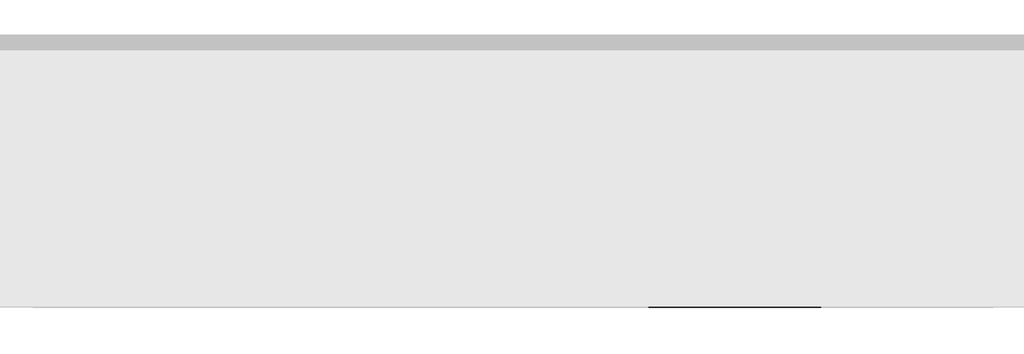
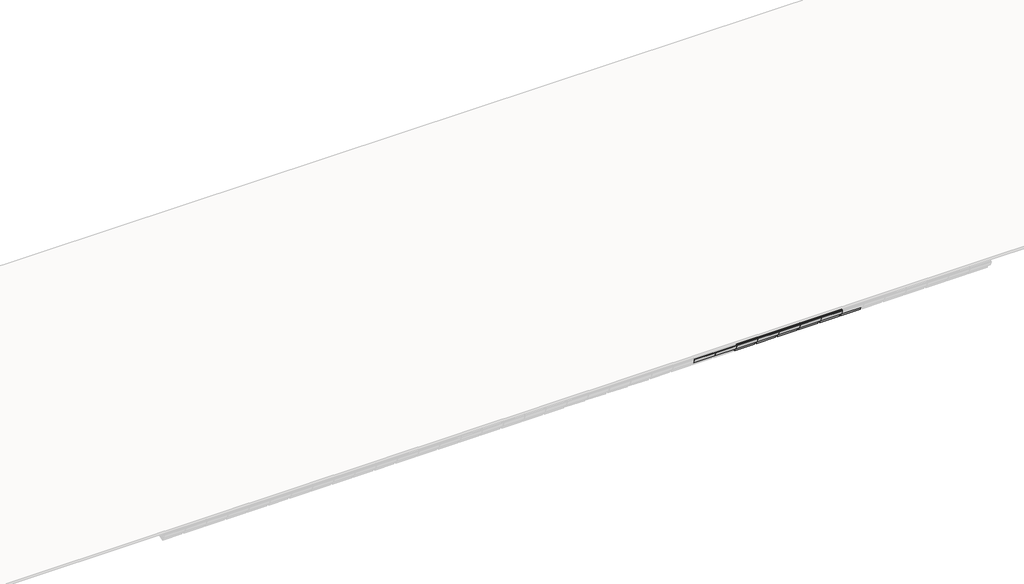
# One storey, part 25 of 57: 80 members, 44 plates.
"""IFC4 building model written with IfcOpenShell, lengths in millimetres."""

from ifc_helpers import new_model, si_unit, origin, place, context, project, spatial, transform, mapped, element, save
from components import rectangular_mullion_59984080, rectangular_mullion_e3e5c75d, rectangular_mullion_2d2423ea, rectangular_mullion_883ae41b, rectangular_mullion_caibro_e4384bba, rectangular_mullion_caibro_0993a3cf, empty_system_panel_vazio_178faf58, empty_system_panel_vazio_2c78850d

model = new_model("IFC4")

# Units and contexts
model_context = context("Model", 3, world=origin())
ifc_project = project(units=[si_unit("LENGTHUNIT", "METRE", prefix="MILLI")], contexts=[model_context])

# Site, building, storey
site = spatial("IfcSite", under=ifc_project)
building = spatial("IfcBuilding", under=site)
storey = spatial("IfcBuildingStorey", under=building, Name="Nível 2", Elevation=4100.0)

# Members
placement = place(None, origin())
rectangular_mullion_shape = rectangular_mullion_59984080(model_context)
element("IfcMember", 1, ObjectType="Rectangular Mullion : Ripa", at=placement, inside=storey, context=model_context, shape_type="MappedRepresentation", body=[
    mapped(rectangular_mullion_shape, transform((29241.1994477, 7422.2287521, 3376.7178042), x_axis=(0.0, 0.9578262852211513, 0.2873478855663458), y_axis=(0.0, 0.2873478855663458, -0.9578262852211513), z_axis=(-1.0, 0.0, 0.0))),
])
element("IfcMember", 2, ObjectType="Rectangular Mullion : Ripa", at=placement, inside=storey, context=model_context, shape_type="MappedRepresentation", body=[
    mapped(rectangular_mullion_shape, transform((29838.2542041, 7422.2287521, 3376.7178042), x_axis=(0.0, 0.9578262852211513, 0.2873478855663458), y_axis=(0.0, 0.2873478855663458, -0.9578262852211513), z_axis=(-1.0, 0.0, 0.0))),
])
element("IfcMember", 3, ObjectType="Rectangular Mullion : Ripa", at=placement, inside=storey, context=model_context, shape_type="MappedRepresentation", body=[
    mapped(rectangular_mullion_shape, transform((30435.3089606, 7422.2287521, 3376.7178042), x_axis=(0.0, 0.9578262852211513, 0.2873478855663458), y_axis=(0.0, 0.2873478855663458, -0.9578262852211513), z_axis=(-1.0, 0.0, 0.0))),
])
element("IfcMember", 4, ObjectType="Rectangular Mullion : Ripa", at=placement, inside=storey, context=model_context, shape_type="MappedRepresentation", body=[
    mapped(rectangular_mullion_shape, transform((31032.363717, 7422.2287521, 3376.7178042), x_axis=(0.0, 0.9578262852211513, 0.2873478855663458), y_axis=(0.0, 0.2873478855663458, -0.9578262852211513), z_axis=(-1.0, 0.0, 0.0))),
])
element("IfcMember", 5, ObjectType="Rectangular Mullion : Ripa", at=placement, inside=storey, context=model_context, shape_type="MappedRepresentation", body=[
    mapped(rectangular_mullion_shape, transform((31629.4184734, 7422.2287521, 3376.7178042), x_axis=(0.0, 0.9578262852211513, 0.2873478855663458), y_axis=(0.0, 0.2873478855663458, -0.9578262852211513), z_axis=(-1.0, 0.0, 0.0))),
])
element("IfcMember", 6, ObjectType="Rectangular Mullion : Ripa", at=placement, inside=storey, context=model_context, shape_type="MappedRepresentation", body=[
    mapped(rectangular_mullion_shape, transform((29241.1994477, 7792.4060108, 3487.7709818), x_axis=(0.0, 0.9578262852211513, 0.2873478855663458), y_axis=(0.0, 0.2873478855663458, -0.9578262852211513), z_axis=(-1.0, 0.0, 0.0))),
])
element("IfcMember", 7, ObjectType="Rectangular Mullion : Ripa", at=placement, inside=storey, context=model_context, shape_type="MappedRepresentation", body=[
    mapped(rectangular_mullion_shape, transform((29838.2542041, 7792.4060108, 3487.7709818), x_axis=(0.0, 0.9578262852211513, 0.2873478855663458), y_axis=(0.0, 0.2873478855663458, -0.9578262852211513), z_axis=(-1.0, 0.0, 0.0))),
])
element("IfcMember", 8, ObjectType="Rectangular Mullion : Ripa", at=placement, inside=storey, context=model_context, shape_type="MappedRepresentation", body=[
    mapped(rectangular_mullion_shape, transform((30435.3089606, 7792.4060108, 3487.7709818), x_axis=(0.0, 0.9578262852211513, 0.2873478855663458), y_axis=(0.0, 0.2873478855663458, -0.9578262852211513), z_axis=(-1.0, 0.0, 0.0))),
])
element("IfcMember", 9, ObjectType="Rectangular Mullion : Ripa", at=placement, inside=storey, context=model_context, shape_type="MappedRepresentation", body=[
    mapped(rectangular_mullion_shape, transform((31032.363717, 7792.4060108, 3487.7709818), x_axis=(0.0, 0.9578262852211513, 0.2873478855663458), y_axis=(0.0, 0.2873478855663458, -0.9578262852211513), z_axis=(-1.0, 0.0, 0.0))),
])
element("IfcMember", 10, ObjectType="Rectangular Mullion : Ripa", at=placement, inside=storey, context=model_context, shape_type="MappedRepresentation", body=[
    mapped(rectangular_mullion_shape, transform((31629.4184734, 7792.4060108, 3487.7709818), x_axis=(0.0, 0.9578262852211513, 0.2873478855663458), y_axis=(0.0, 0.2873478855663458, -0.9578262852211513), z_axis=(-1.0, 0.0, 0.0))),
])
element("IfcMember", 11, ObjectType="Rectangular Mullion : Ripa", at=placement, inside=storey, context=model_context, shape_type="MappedRepresentation", body=[
    mapped(rectangular_mullion_shape, transform((16105.9948064, 8162.5832694, 3598.8241594), x_axis=(0.0, 0.9578262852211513, 0.2873478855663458), y_axis=(0.0, 0.2873478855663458, -0.9578262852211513), z_axis=(-1.0, 0.0, 0.0))),
])
element("IfcMember", 12, ObjectType="Rectangular Mullion : Ripa", at=placement, inside=storey, context=model_context, shape_type="MappedRepresentation", body=[
    mapped(rectangular_mullion_shape, transform((16703.0495628, 8162.5832694, 3598.8241594), x_axis=(0.0, 0.9578262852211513, 0.2873478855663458), y_axis=(0.0, 0.2873478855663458, -0.9578262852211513), z_axis=(-1.0, 0.0, 0.0))),
])
element("IfcMember", 13, ObjectType="Rectangular Mullion : Ripa", at=placement, inside=storey, context=model_context, shape_type="MappedRepresentation", body=[
    mapped(rectangular_mullion_shape, transform((17300.1043192, 8162.5832694, 3598.8241594), x_axis=(0.0, 0.9578262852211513, 0.2873478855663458), y_axis=(0.0, 0.2873478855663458, -0.9578262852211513), z_axis=(-1.0, 0.0, 0.0))),
])
element("IfcMember", 14, ObjectType="Rectangular Mullion : Ripa", at=placement, inside=storey, context=model_context, shape_type="MappedRepresentation", body=[
    mapped(rectangular_mullion_shape, transform((17897.1590756, 8162.5832694, 3598.8241594), x_axis=(0.0, 0.9578262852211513, 0.2873478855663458), y_axis=(0.0, 0.2873478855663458, -0.9578262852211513), z_axis=(-1.0, 0.0, 0.0))),
])
element("IfcMember", 15, ObjectType="Rectangular Mullion : Ripa", at=placement, inside=storey, context=model_context, shape_type="MappedRepresentation", body=[
    mapped(rectangular_mullion_shape, transform((16105.9948064, 8532.7605281, 3709.877337), x_axis=(0.0, 0.9578262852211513, 0.2873478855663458), y_axis=(0.0, 0.2873478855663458, -0.9578262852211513), z_axis=(-1.0, 0.0, 0.0))),
])
element("IfcMember", 16, ObjectType="Rectangular Mullion : Ripa", at=placement, inside=storey, context=model_context, shape_type="MappedRepresentation", body=[
    mapped(rectangular_mullion_shape, transform((16703.0495628, 8532.7605281, 3709.877337), x_axis=(0.0, 0.9578262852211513, 0.2873478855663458), y_axis=(0.0, 0.2873478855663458, -0.9578262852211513), z_axis=(-1.0, 0.0, 0.0))),
])
element("IfcMember", 17, ObjectType="Rectangular Mullion : Ripa", at=placement, inside=storey, context=model_context, shape_type="MappedRepresentation", body=[
    mapped(rectangular_mullion_shape, transform((17300.1043192, 8532.7605281, 3709.877337), x_axis=(0.0, 0.9578262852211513, 0.2873478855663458), y_axis=(0.0, 0.2873478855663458, -0.9578262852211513), z_axis=(-1.0, 0.0, 0.0))),
])
element("IfcMember", 18, ObjectType="Rectangular Mullion : Ripa", at=placement, inside=storey, context=model_context, shape_type="MappedRepresentation", body=[
    mapped(rectangular_mullion_shape, transform((17897.1590756, 8532.7605281, 3709.877337), x_axis=(0.0, 0.9578262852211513, 0.2873478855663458), y_axis=(0.0, 0.2873478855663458, -0.9578262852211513), z_axis=(-1.0, 0.0, 0.0))),
])
element("IfcMember", 19, ObjectType="Rectangular Mullion : Ripa", at=placement, inside=storey, context=model_context, shape_type="MappedRepresentation", body=[
    mapped(rectangular_mullion_shape, transform((16105.9948064, 8902.9377868, 3820.9305146), x_axis=(0.0, 0.9578262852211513, 0.2873478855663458), y_axis=(0.0, 0.2873478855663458, -0.9578262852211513), z_axis=(-1.0, 0.0, 0.0))),
])
element("IfcMember", 20, ObjectType="Rectangular Mullion : Ripa", at=placement, inside=storey, context=model_context, shape_type="MappedRepresentation", body=[
    mapped(rectangular_mullion_shape, transform((16703.0495628, 8902.9377868, 3820.9305146), x_axis=(0.0, 0.9578262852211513, 0.2873478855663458), y_axis=(0.0, 0.2873478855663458, -0.9578262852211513), z_axis=(-1.0, 0.0, 0.0))),
])
element("IfcMember", 21, ObjectType="Rectangular Mullion : Ripa", at=placement, inside=storey, context=model_context, shape_type="MappedRepresentation", body=[
    mapped(rectangular_mullion_shape, transform((17300.1043192, 8902.9377868, 3820.9305146), x_axis=(0.0, 0.9578262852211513, 0.2873478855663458), y_axis=(0.0, 0.2873478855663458, -0.9578262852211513), z_axis=(-1.0, 0.0, 0.0))),
])
element("IfcMember", 22, ObjectType="Rectangular Mullion : Ripa", at=placement, inside=storey, context=model_context, shape_type="MappedRepresentation", body=[
    mapped(rectangular_mullion_shape, transform((17897.1590756, 8902.9377868, 3820.9305146), x_axis=(0.0, 0.9578262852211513, 0.2873478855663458), y_axis=(0.0, 0.2873478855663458, -0.9578262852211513), z_axis=(-1.0, 0.0, 0.0))),
])
element("IfcMember", 23, ObjectType="Rectangular Mullion : Ripa", at=placement, inside=storey, context=model_context, shape_type="MappedRepresentation", body=[
    mapped(rectangular_mullion_shape, transform((16105.9948064, 9273.1150454, 3931.9836922), x_axis=(0.0, 0.9578262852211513, 0.2873478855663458), y_axis=(0.0, 0.2873478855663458, -0.9578262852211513), z_axis=(-1.0, 0.0, 0.0))),
])
element("IfcMember", 24, ObjectType="Rectangular Mullion : Ripa", at=placement, inside=storey, context=model_context, shape_type="MappedRepresentation", body=[
    mapped(rectangular_mullion_shape, transform((16703.0495628, 9273.1150454, 3931.9836922), x_axis=(0.0, 0.9578262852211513, 0.2873478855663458), y_axis=(0.0, 0.2873478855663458, -0.9578262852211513), z_axis=(-1.0, 0.0, 0.0))),
])
element("IfcMember", 25, ObjectType="Rectangular Mullion : Ripa", at=placement, inside=storey, context=model_context, shape_type="MappedRepresentation", body=[
    mapped(rectangular_mullion_shape, transform((17300.1043192, 9273.1150454, 3931.9836922), x_axis=(0.0, 0.9578262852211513, 0.2873478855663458), y_axis=(0.0, 0.2873478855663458, -0.9578262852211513), z_axis=(-1.0, 0.0, 0.0))),
])
element("IfcMember", 26, ObjectType="Rectangular Mullion : Ripa", at=placement, inside=storey, context=model_context, shape_type="MappedRepresentation", body=[
    mapped(rectangular_mullion_shape, transform((17897.1590756, 9273.1150454, 3931.9836922), x_axis=(0.0, 0.9578262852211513, 0.2873478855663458), y_axis=(0.0, 0.2873478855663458, -0.9578262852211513), z_axis=(-1.0, 0.0, 0.0))),
])
element("IfcMember", 27, ObjectType="Rectangular Mullion : Ripa", at=placement, inside=storey, context=model_context, shape_type="MappedRepresentation", body=[
    mapped(rectangular_mullion_shape, transform((16105.9948064, 9643.2923041, 4043.0368698), x_axis=(0.0, 0.9578262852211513, 0.2873478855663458), y_axis=(0.0, 0.2873478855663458, -0.9578262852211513), z_axis=(-1.0, 0.0, 0.0))),
])
element("IfcMember", 28, ObjectType="Rectangular Mullion : Ripa", at=placement, inside=storey, context=model_context, shape_type="MappedRepresentation", body=[
    mapped(rectangular_mullion_shape, transform((16703.0495628, 9643.2923041, 4043.0368698), x_axis=(0.0, 0.9578262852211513, 0.2873478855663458), y_axis=(0.0, 0.2873478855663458, -0.9578262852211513), z_axis=(-1.0, 0.0, 0.0))),
])
element("IfcMember", 29, ObjectType="Rectangular Mullion : Ripa", at=placement, inside=storey, context=model_context, shape_type="MappedRepresentation", body=[
    mapped(rectangular_mullion_shape, transform((17300.1043192, 9643.2923041, 4043.0368698), x_axis=(0.0, 0.9578262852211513, 0.2873478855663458), y_axis=(0.0, 0.2873478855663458, -0.9578262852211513), z_axis=(-1.0, 0.0, 0.0))),
])
element("IfcMember", 30, ObjectType="Rectangular Mullion : Ripa", at=placement, inside=storey, context=model_context, shape_type="MappedRepresentation", body=[
    mapped(rectangular_mullion_shape, transform((17897.1590756, 9643.2923041, 4043.0368698), x_axis=(0.0, 0.9578262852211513, 0.2873478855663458), y_axis=(0.0, 0.2873478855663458, -0.9578262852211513), z_axis=(-1.0, 0.0, 0.0))),
])
rectangular_mullion_2_shape = rectangular_mullion_e3e5c75d(model_context)
element("IfcMember", 31, ObjectType="Rectangular Mullion : Ripa", at=placement, inside=storey, context=model_context, shape_type="MappedRepresentation", body=[
    mapped(rectangular_mullion_2_shape, transform((29216.1994477, 7004.1601792, 3251.2972323), x_axis=(0.0, -0.9578262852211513, -0.2873478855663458), y_axis=(0.0, 0.2873478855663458, -0.9578262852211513), z_axis=(1.0, 0.0, 0.0))),
])
element("IfcMember", 32, ObjectType="Rectangular Mullion : Ripa", at=placement, inside=storey, context=model_context, shape_type="MappedRepresentation", body=[
    mapped(rectangular_mullion_2_shape, transform((29813.2542041, 7004.1601792, 3251.2972323), x_axis=(0.0, -0.9578262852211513, -0.2873478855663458), y_axis=(0.0, 0.2873478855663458, -0.9578262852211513), z_axis=(1.0, 0.0, 0.0))),
])
element("IfcMember", 33, ObjectType="Rectangular Mullion : Ripa", at=placement, inside=storey, context=model_context, shape_type="MappedRepresentation", body=[
    mapped(rectangular_mullion_2_shape, transform((30410.3089606, 7004.1601792, 3251.2972323), x_axis=(0.0, -0.9578262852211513, -0.2873478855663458), y_axis=(0.0, 0.2873478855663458, -0.9578262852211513), z_axis=(1.0, 0.0, 0.0))),
])
element("IfcMember", 34, ObjectType="Rectangular Mullion : Ripa", at=placement, inside=storey, context=model_context, shape_type="MappedRepresentation", body=[
    mapped(rectangular_mullion_2_shape, transform((31007.363717, 7004.1601792, 3251.2972323), x_axis=(0.0, -0.9578262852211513, -0.2873478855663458), y_axis=(0.0, 0.2873478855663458, -0.9578262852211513), z_axis=(1.0, 0.0, 0.0))),
])
element("IfcMember", 35, ObjectType="Rectangular Mullion : Ripa", at=placement, inside=storey, context=model_context, shape_type="MappedRepresentation", body=[
    mapped(rectangular_mullion_2_shape, transform((31604.4184734, 7004.1601792, 3251.2972323), x_axis=(0.0, -0.9578262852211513, -0.2873478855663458), y_axis=(0.0, 0.2873478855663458, -0.9578262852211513), z_axis=(1.0, 0.0, 0.0))),
])
rectangular_mullion_3_shape = rectangular_mullion_2d2423ea(model_context)
element("IfcMember", 36, ObjectType="Rectangular Mullion : Terça", at=placement, inside=storey, context=model_context, shape_type="MappedRepresentation", body=[
    mapped(rectangular_mullion_3_shape, transform((16105.9948064, 9159.0196393, 3835.1132313), x_axis=(0.0, 0.9578262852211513, 0.2873478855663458), y_axis=(0.0, 0.2873478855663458, -0.9578262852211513), z_axis=(-1.0, 0.0, 0.0))),
])
element("IfcMember", 37, ObjectType="Rectangular Mullion : Terça", at=placement, inside=storey, context=model_context, shape_type="MappedRepresentation", body=[
    mapped(rectangular_mullion_3_shape, transform((16703.0495628, 9159.0196393, 3835.1132313), x_axis=(0.0, 0.9578262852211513, 0.2873478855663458), y_axis=(0.0, 0.2873478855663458, -0.9578262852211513), z_axis=(-1.0, 0.0, 0.0))),
])
element("IfcMember", 38, ObjectType="Rectangular Mullion : Terça", at=placement, inside=storey, context=model_context, shape_type="MappedRepresentation", body=[
    mapped(rectangular_mullion_3_shape, transform((17300.1043192, 9159.0196393, 3835.1132313), x_axis=(0.0, 0.9578262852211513, 0.2873478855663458), y_axis=(0.0, 0.2873478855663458, -0.9578262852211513), z_axis=(-1.0, 0.0, 0.0))),
])
element("IfcMember", 39, ObjectType="Rectangular Mullion : Terça", at=placement, inside=storey, context=model_context, shape_type="MappedRepresentation", body=[
    mapped(rectangular_mullion_3_shape, transform((17897.1590756, 9159.0196393, 3835.1132313), x_axis=(0.0, 0.9578262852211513, 0.2873478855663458), y_axis=(0.0, 0.2873478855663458, -0.9578262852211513), z_axis=(-1.0, 0.0, 0.0))),
])
rectangular_mullion_4_shape = rectangular_mullion_883ae41b(model_context)
element("IfcMember", 40, ObjectType="Rectangular Mullion : Terça", at=placement, inside=storey, context=model_context, shape_type="MappedRepresentation", body=[
    mapped(rectangular_mullion_4_shape, transform((28022.0899349, 7004.1601792, 3188.6553932), x_axis=(0.0, -0.9578262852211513, -0.2873478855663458), y_axis=(0.0, 0.2873478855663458, -0.9578262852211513), z_axis=(1.0, 0.0, 0.0))),
])
element("IfcMember", 41, ObjectType="Rectangular Mullion : Terça", at=placement, inside=storey, context=model_context, shape_type="MappedRepresentation", body=[
    mapped(rectangular_mullion_4_shape, transform((28619.1446913, 7004.1601792, 3188.6553932), x_axis=(0.0, -0.9578262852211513, -0.2873478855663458), y_axis=(0.0, 0.2873478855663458, -0.9578262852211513), z_axis=(1.0, 0.0, 0.0))),
])
element("IfcMember", 42, ObjectType="Rectangular Mullion : Terça", at=placement, inside=storey, context=model_context, shape_type="MappedRepresentation", body=[
    mapped(rectangular_mullion_4_shape, transform((29216.1994477, 7004.1601792, 3188.6553932), x_axis=(0.0, -0.9578262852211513, -0.2873478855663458), y_axis=(0.0, 0.2873478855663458, -0.9578262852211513), z_axis=(1.0, 0.0, 0.0))),
])
element("IfcMember", 43, ObjectType="Rectangular Mullion : Terça", at=placement, inside=storey, context=model_context, shape_type="MappedRepresentation", body=[
    mapped(rectangular_mullion_4_shape, transform((29813.2542041, 7004.1601792, 3188.6553932), x_axis=(0.0, -0.9578262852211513, -0.2873478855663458), y_axis=(0.0, 0.2873478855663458, -0.9578262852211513), z_axis=(1.0, 0.0, 0.0))),
])
element("IfcMember", 44, ObjectType="Rectangular Mullion : Terça", at=placement, inside=storey, context=model_context, shape_type="MappedRepresentation", body=[
    mapped(rectangular_mullion_4_shape, transform((30410.3089606, 7004.1601792, 3188.6553932), x_axis=(0.0, -0.9578262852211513, -0.2873478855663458), y_axis=(0.0, 0.2873478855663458, -0.9578262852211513), z_axis=(1.0, 0.0, 0.0))),
])
element("IfcMember", 45, ObjectType="Rectangular Mullion : Terça", at=placement, inside=storey, context=model_context, shape_type="MappedRepresentation", body=[
    mapped(rectangular_mullion_4_shape, transform((31007.363717, 7004.1601792, 3188.6553932), x_axis=(0.0, -0.9578262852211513, -0.2873478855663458), y_axis=(0.0, 0.2873478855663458, -0.9578262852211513), z_axis=(1.0, 0.0, 0.0))),
])
element("IfcMember", 46, ObjectType="Rectangular Mullion : Terça", at=placement, inside=storey, context=model_context, shape_type="MappedRepresentation", body=[
    mapped(rectangular_mullion_4_shape, transform((31604.4184734, 7004.1601792, 3188.6553932), x_axis=(0.0, -0.9578262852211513, -0.2873478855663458), y_axis=(0.0, 0.2873478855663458, -0.9578262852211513), z_axis=(1.0, 0.0, 0.0))),
])
rectangular_mullion_caibro_shape = rectangular_mullion_caibro_e4384bba(model_context)
element("IfcMember", 47, ObjectType="Rectangular Mullion : Caibro", at=placement, inside=storey, context=model_context, shape_type="MappedRepresentation", body=[
    mapped(rectangular_mullion_caibro_shape, transform((29216.1994477, 7422.2287521, 3376.7178042), x_axis=(1.0, 0.0, 0.0), y_axis=(0.0, 0.2873478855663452, -0.9578262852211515), z_axis=(0.0, 0.9578262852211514, 0.28734788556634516))),
])
element("IfcMember", 48, ObjectType="Rectangular Mullion : Caibro", at=placement, inside=storey, context=model_context, shape_type="MappedRepresentation", body=[
    mapped(rectangular_mullion_caibro_shape, transform((29813.2542041, 7422.2287521, 3376.7178042), x_axis=(1.0, 0.0, 0.0), y_axis=(0.0, 0.2873478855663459, -0.9578262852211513), z_axis=(0.0, 0.9578262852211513, 0.2873478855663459))),
])
element("IfcMember", 49, ObjectType="Rectangular Mullion : Caibro", at=placement, inside=storey, context=model_context, shape_type="MappedRepresentation", body=[
    mapped(rectangular_mullion_caibro_shape, transform((30410.3089606, 7422.2287521, 3376.7178042), x_axis=(1.0, 0.0, 0.0), y_axis=(0.0, 0.2873478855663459, -0.9578262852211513), z_axis=(0.0, 0.9578262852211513, 0.2873478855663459))),
])
element("IfcMember", 50, ObjectType="Rectangular Mullion : Caibro", at=placement, inside=storey, context=model_context, shape_type="MappedRepresentation", body=[
    mapped(rectangular_mullion_caibro_shape, transform((31007.363717, 7422.2287521, 3376.7178042), x_axis=(1.0, 0.0, 0.0), y_axis=(0.0, 0.2873478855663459, -0.9578262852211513), z_axis=(0.0, 0.9578262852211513, 0.2873478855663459))),
])
element("IfcMember", 51, ObjectType="Rectangular Mullion : Caibro", at=placement, inside=storey, context=model_context, shape_type="MappedRepresentation", body=[
    mapped(rectangular_mullion_caibro_shape, transform((31604.4184734, 7422.2287521, 3376.7178042), x_axis=(1.0, 0.0, 0.0), y_axis=(0.0, 0.2873478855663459, -0.9578262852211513), z_axis=(0.0, 0.9578262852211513, 0.2873478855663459))),
])
element("IfcMember", 52, ObjectType="Rectangular Mullion : Caibro", at=placement, inside=storey, context=model_context, shape_type="MappedRepresentation", body=[
    mapped(rectangular_mullion_caibro_shape, transform((16080.9948064, 8162.5832694, 3598.8241594), x_axis=(1.0, 0.0, 0.0), y_axis=(0.0, 0.28734788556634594, -0.9578262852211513), z_axis=(0.0, 0.9578262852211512, 0.2873478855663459))),
])
element("IfcMember", 53, ObjectType="Rectangular Mullion : Caibro", at=placement, inside=storey, context=model_context, shape_type="MappedRepresentation", body=[
    mapped(rectangular_mullion_caibro_shape, transform((16080.9948064, 8532.7605281, 3709.877337), x_axis=(1.0, 0.0, 0.0), y_axis=(0.0, 0.2873478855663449, -0.9578262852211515), z_axis=(0.0, 0.9578262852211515, 0.2873478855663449))),
])
element("IfcMember", 54, ObjectType="Rectangular Mullion : Caibro", at=placement, inside=storey, context=model_context, shape_type="MappedRepresentation", body=[
    mapped(rectangular_mullion_caibro_shape, transform((16080.9948064, 8902.9377868, 3820.9305146), x_axis=(1.0, 0.0, 0.0), y_axis=(0.0, 0.2873478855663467, -0.9578262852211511), z_axis=(0.0, 0.9578262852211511, 0.2873478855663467))),
])
element("IfcMember", 55, ObjectType="Rectangular Mullion : Caibro", at=placement, inside=storey, context=model_context, shape_type="MappedRepresentation", body=[
    mapped(rectangular_mullion_caibro_shape, transform((16080.9948064, 9273.1150454, 3931.9836922), x_axis=(1.0, 0.0, 0.0), y_axis=(0.0, 0.2873478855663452, -0.9578262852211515), z_axis=(0.0, 0.9578262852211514, 0.28734788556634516))),
])
element("IfcMember", 56, ObjectType="Rectangular Mullion : Caibro", at=placement, inside=storey, context=model_context, shape_type="MappedRepresentation", body=[
    mapped(rectangular_mullion_caibro_shape, transform((16080.9948064, 9643.2923041, 4043.0368698), x_axis=(1.0, 0.0, 0.0), y_axis=(0.0, 0.2873478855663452, -0.9578262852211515), z_axis=(0.0, 0.9578262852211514, 0.28734788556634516))),
])
element("IfcMember", 57, ObjectType="Rectangular Mullion : Caibro", at=placement, inside=storey, context=model_context, shape_type="MappedRepresentation", body=[
    mapped(rectangular_mullion_caibro_shape, transform((16678.0495628, 8162.5832694, 3598.8241594), x_axis=(1.0, 0.0, 0.0), y_axis=(0.0, 0.2873478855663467, -0.9578262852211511), z_axis=(0.0, 0.9578262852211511, 0.2873478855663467))),
])
element("IfcMember", 58, ObjectType="Rectangular Mullion : Caibro", at=placement, inside=storey, context=model_context, shape_type="MappedRepresentation", body=[
    mapped(rectangular_mullion_caibro_shape, transform((16678.0495628, 8532.7605281, 3709.877337), x_axis=(1.0, 0.0, 0.0), y_axis=(0.0, 0.2873478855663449, -0.9578262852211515), z_axis=(0.0, 0.9578262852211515, 0.2873478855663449))),
])
element("IfcMember", 59, ObjectType="Rectangular Mullion : Caibro", at=placement, inside=storey, context=model_context, shape_type="MappedRepresentation", body=[
    mapped(rectangular_mullion_caibro_shape, transform((16678.0495628, 8902.9377868, 3820.9305146), x_axis=(1.0, 0.0, 0.0), y_axis=(0.0, 0.2873478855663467, -0.9578262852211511), z_axis=(0.0, 0.9578262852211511, 0.2873478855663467))),
])
element("IfcMember", 60, ObjectType="Rectangular Mullion : Caibro", at=placement, inside=storey, context=model_context, shape_type="MappedRepresentation", body=[
    mapped(rectangular_mullion_caibro_shape, transform((16678.0495628, 9273.1150454, 3931.9836922), x_axis=(1.0, 0.0, 0.0), y_axis=(0.0, 0.2873478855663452, -0.9578262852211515), z_axis=(0.0, 0.9578262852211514, 0.28734788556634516))),
])
element("IfcMember", 61, ObjectType="Rectangular Mullion : Caibro", at=placement, inside=storey, context=model_context, shape_type="MappedRepresentation", body=[
    mapped(rectangular_mullion_caibro_shape, transform((16678.0495628, 9643.2923041, 4043.0368698), x_axis=(1.0, 0.0, 0.0), y_axis=(0.0, 0.28734788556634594, -0.9578262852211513), z_axis=(0.0, 0.9578262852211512, 0.2873478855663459))),
])
element("IfcMember", 62, ObjectType="Rectangular Mullion : Caibro", at=placement, inside=storey, context=model_context, shape_type="MappedRepresentation", body=[
    mapped(rectangular_mullion_caibro_shape, transform((17275.1043192, 8162.5832694, 3598.8241594), x_axis=(1.0, 0.0, 0.0), y_axis=(0.0, 0.2873478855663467, -0.9578262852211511), z_axis=(0.0, 0.9578262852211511, 0.2873478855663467))),
])
element("IfcMember", 63, ObjectType="Rectangular Mullion : Caibro", at=placement, inside=storey, context=model_context, shape_type="MappedRepresentation", body=[
    mapped(rectangular_mullion_caibro_shape, transform((17275.1043192, 8532.7605281, 3709.877337), x_axis=(1.0, 0.0, 0.0), y_axis=(0.0, 0.2873478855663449, -0.9578262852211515), z_axis=(0.0, 0.9578262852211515, 0.2873478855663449))),
])
element("IfcMember", 64, ObjectType="Rectangular Mullion : Caibro", at=placement, inside=storey, context=model_context, shape_type="MappedRepresentation", body=[
    mapped(rectangular_mullion_caibro_shape, transform((17275.1043192, 8902.9377868, 3820.9305146), x_axis=(1.0, 0.0, 0.0), y_axis=(0.0, 0.2873478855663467, -0.9578262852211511), z_axis=(0.0, 0.9578262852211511, 0.2873478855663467))),
])
element("IfcMember", 65, ObjectType="Rectangular Mullion : Caibro", at=placement, inside=storey, context=model_context, shape_type="MappedRepresentation", body=[
    mapped(rectangular_mullion_caibro_shape, transform((17275.1043192, 9273.1150454, 3931.9836922), x_axis=(1.0, 0.0, 0.0), y_axis=(0.0, 0.2873478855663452, -0.9578262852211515), z_axis=(0.0, 0.9578262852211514, 0.28734788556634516))),
])
element("IfcMember", 66, ObjectType="Rectangular Mullion : Caibro", at=placement, inside=storey, context=model_context, shape_type="MappedRepresentation", body=[
    mapped(rectangular_mullion_caibro_shape, transform((17275.1043192, 9643.2923041, 4043.0368698), x_axis=(1.0, 0.0, 0.0), y_axis=(0.0, 0.28734788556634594, -0.9578262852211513), z_axis=(0.0, 0.9578262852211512, 0.2873478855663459))),
])
element("IfcMember", 67, ObjectType="Rectangular Mullion : Caibro", at=placement, inside=storey, context=model_context, shape_type="MappedRepresentation", body=[
    mapped(rectangular_mullion_caibro_shape, transform((17872.1590756, 8162.5832694, 3598.8241594), x_axis=(1.0, 0.0, 0.0), y_axis=(0.0, 0.2873478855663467, -0.9578262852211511), z_axis=(0.0, 0.9578262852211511, 0.2873478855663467))),
])
element("IfcMember", 68, ObjectType="Rectangular Mullion : Caibro", at=placement, inside=storey, context=model_context, shape_type="MappedRepresentation", body=[
    mapped(rectangular_mullion_caibro_shape, transform((17872.1590756, 8532.7605281, 3709.877337), x_axis=(1.0, 0.0, 0.0), y_axis=(0.0, 0.2873478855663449, -0.9578262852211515), z_axis=(0.0, 0.9578262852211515, 0.2873478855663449))),
])
element("IfcMember", 69, ObjectType="Rectangular Mullion : Caibro", at=placement, inside=storey, context=model_context, shape_type="MappedRepresentation", body=[
    mapped(rectangular_mullion_caibro_shape, transform((17872.1590756, 8902.9377868, 3820.9305146), x_axis=(1.0, 0.0, 0.0), y_axis=(0.0, 0.2873478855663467, -0.9578262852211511), z_axis=(0.0, 0.9578262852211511, 0.2873478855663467))),
])
element("IfcMember", 70, ObjectType="Rectangular Mullion : Caibro", at=placement, inside=storey, context=model_context, shape_type="MappedRepresentation", body=[
    mapped(rectangular_mullion_caibro_shape, transform((17872.1590756, 9273.1150454, 3931.9836922), x_axis=(1.0, 0.0, 0.0), y_axis=(0.0, 0.2873478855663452, -0.9578262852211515), z_axis=(0.0, 0.9578262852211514, 0.28734788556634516))),
])
element("IfcMember", 71, ObjectType="Rectangular Mullion : Caibro", at=placement, inside=storey, context=model_context, shape_type="MappedRepresentation", body=[
    mapped(rectangular_mullion_caibro_shape, transform((17872.1590756, 9643.2923041, 4043.0368698), x_axis=(1.0, 0.0, 0.0), y_axis=(0.0, 0.28734788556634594, -0.9578262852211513), z_axis=(0.0, 0.9578262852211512, 0.2873478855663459))),
])
element("IfcMember", 72, ObjectType="Rectangular Mullion : Caibro", at=placement, inside=storey, context=model_context, shape_type="MappedRepresentation", body=[
    mapped(rectangular_mullion_caibro_shape, transform((29216.1994477, 7792.4060108, 3487.7709818), x_axis=(1.0, 0.0, 0.0), y_axis=(0.0, 0.2873478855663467, -0.9578262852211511), z_axis=(0.0, 0.9578262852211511, 0.2873478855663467))),
])
element("IfcMember", 73, ObjectType="Rectangular Mullion : Caibro", at=placement, inside=storey, context=model_context, shape_type="MappedRepresentation", body=[
    mapped(rectangular_mullion_caibro_shape, transform((29813.2542041, 7792.4060108, 3487.7709818), x_axis=(1.0, 0.0, 0.0), y_axis=(0.0, 0.2873478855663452, -0.9578262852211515), z_axis=(0.0, 0.9578262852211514, 0.28734788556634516))),
])
element("IfcMember", 74, ObjectType="Rectangular Mullion : Caibro", at=placement, inside=storey, context=model_context, shape_type="MappedRepresentation", body=[
    mapped(rectangular_mullion_caibro_shape, transform((30410.3089606, 7792.4060108, 3487.7709818), x_axis=(1.0, 0.0, 0.0), y_axis=(0.0, 0.2873478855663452, -0.9578262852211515), z_axis=(0.0, 0.9578262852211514, 0.28734788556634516))),
])
element("IfcMember", 75, ObjectType="Rectangular Mullion : Caibro", at=placement, inside=storey, context=model_context, shape_type="MappedRepresentation", body=[
    mapped(rectangular_mullion_caibro_shape, transform((31007.363717, 7792.4060108, 3487.7709818), x_axis=(1.0, 0.0, 0.0), y_axis=(0.0, 0.2873478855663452, -0.9578262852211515), z_axis=(0.0, 0.9578262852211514, 0.28734788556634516))),
])
element("IfcMember", 76, ObjectType="Rectangular Mullion : Caibro", at=placement, inside=storey, context=model_context, shape_type="MappedRepresentation", body=[
    mapped(rectangular_mullion_caibro_shape, transform((31604.4184734, 7792.4060108, 3487.7709818), x_axis=(1.0, 0.0, 0.0), y_axis=(0.0, 0.2873478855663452, -0.9578262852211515), z_axis=(0.0, 0.9578262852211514, 0.28734788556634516))),
])
rectangular_mullion_caibro_2_shape = rectangular_mullion_caibro_0993a3cf(model_context)
element("IfcMember", 77, ObjectType="Rectangular Mullion : Caibro", at=placement, inside=storey, context=model_context, shape_type="MappedRepresentation", body=[
    mapped(rectangular_mullion_caibro_2_shape, transform((16080.9948064, 9159.0196393, 3835.1132313), x_axis=(1.0, 0.0, 0.0), y_axis=(0.0, 0.2873478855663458, -0.9578262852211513), z_axis=(0.0, 0.9578262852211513, 0.2873478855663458))),
])
element("IfcMember", 78, ObjectType="Rectangular Mullion : Caibro", at=placement, inside=storey, context=model_context, shape_type="MappedRepresentation", body=[
    mapped(rectangular_mullion_caibro_2_shape, transform((16678.0495628, 9159.0196393, 3835.1132313), x_axis=(1.0, 0.0, 0.0), y_axis=(0.0, 0.2873478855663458, -0.9578262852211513), z_axis=(0.0, 0.9578262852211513, 0.2873478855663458))),
])
element("IfcMember", 79, ObjectType="Rectangular Mullion : Caibro", at=placement, inside=storey, context=model_context, shape_type="MappedRepresentation", body=[
    mapped(rectangular_mullion_caibro_2_shape, transform((17275.1043192, 9159.0196393, 3835.1132313), x_axis=(1.0, 0.0, 0.0), y_axis=(0.0, 0.2873478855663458, -0.9578262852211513), z_axis=(0.0, 0.9578262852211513, 0.2873478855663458))),
])
element("IfcMember", 80, ObjectType="Rectangular Mullion : Caibro", at=placement, inside=storey, context=model_context, shape_type="MappedRepresentation", body=[
    mapped(rectangular_mullion_caibro_2_shape, transform((17872.1590756, 9159.0196393, 3835.1132313), x_axis=(1.0, 0.0, 0.0), y_axis=(0.0, 0.2873478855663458, -0.9578262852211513), z_axis=(0.0, 0.9578262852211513, 0.2873478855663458))),
])

# Plates
empty_system_panel_vazio_shape = empty_system_panel_vazio_178faf58(model_context)
element("IfcPlate", 81, ObjectType="Empty System Panel : Vazio", at=placement, inside=storey, context=model_context, shape_type="MappedRepresentation", body=[
    mapped(empty_system_panel_vazio_shape, transform((29514.7268259, 7052.0514934, 3265.6646266), x_axis=(1.0, 0.0, 0.0), y_axis=(0.0, 0.2873478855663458, -0.9578262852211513), z_axis=(0.0, 0.9578262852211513, 0.2873478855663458))),
])
element("IfcPlate", 82, ObjectType="Empty System Panel : Vazio", at=placement, inside=storey, context=model_context, shape_type="MappedRepresentation", body=[
    mapped(empty_system_panel_vazio_shape, transform((30111.7815823, 7052.0514934, 3265.6646266), x_axis=(1.0, 0.0, 0.0), y_axis=(0.0, 0.2873478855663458, -0.9578262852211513), z_axis=(0.0, 0.9578262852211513, 0.2873478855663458))),
])
element("IfcPlate", 83, ObjectType="Empty System Panel : Vazio", at=placement, inside=storey, context=model_context, shape_type="MappedRepresentation", body=[
    mapped(empty_system_panel_vazio_shape, transform((30708.8363388, 7052.0514934, 3265.6646266), x_axis=(1.0, 0.0, 0.0), y_axis=(0.0, 0.2873478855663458, -0.9578262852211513), z_axis=(0.0, 0.9578262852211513, 0.2873478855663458))),
])
element("IfcPlate", 84, ObjectType="Empty System Panel : Vazio", at=placement, inside=storey, context=model_context, shape_type="MappedRepresentation", body=[
    mapped(empty_system_panel_vazio_shape, transform((31305.8910952, 7052.0514934, 3265.6646266), x_axis=(1.0, 0.0, 0.0), y_axis=(0.0, 0.2873478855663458, -0.9578262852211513), z_axis=(0.0, 0.9578262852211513, 0.2873478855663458))),
])
element("IfcPlate", 85, ObjectType="Empty System Panel : Vazio", at=placement, inside=storey, context=model_context, shape_type="MappedRepresentation", body=[
    mapped(empty_system_panel_vazio_shape, transform((31902.9458516, 7052.0514934, 3265.6646266), x_axis=(1.0, 0.0, 0.0), y_axis=(0.0, 0.2873478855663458, -0.9578262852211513), z_axis=(0.0, 0.9578262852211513, 0.2873478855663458))),
])
element("IfcPlate", 86, ObjectType="Empty System Panel : Vazio", at=placement, inside=storey, context=model_context, shape_type="MappedRepresentation", body=[
    mapped(empty_system_panel_vazio_shape, transform((29514.7268259, 7422.2287521, 3376.7178042), x_axis=(1.0, 0.0, 0.0), y_axis=(0.0, 0.2873478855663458, -0.9578262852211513), z_axis=(0.0, 0.9578262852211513, 0.2873478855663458))),
])
element("IfcPlate", 87, ObjectType="Empty System Panel : Vazio", at=placement, inside=storey, context=model_context, shape_type="MappedRepresentation", body=[
    mapped(empty_system_panel_vazio_shape, transform((30111.7815823, 7422.2287521, 3376.7178042), x_axis=(1.0, 0.0, 0.0), y_axis=(0.0, 0.2873478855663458, -0.9578262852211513), z_axis=(0.0, 0.9578262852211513, 0.2873478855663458))),
])
element("IfcPlate", 88, ObjectType="Empty System Panel : Vazio", at=placement, inside=storey, context=model_context, shape_type="MappedRepresentation", body=[
    mapped(empty_system_panel_vazio_shape, transform((30708.8363388, 7422.2287521, 3376.7178042), x_axis=(1.0, 0.0, 0.0), y_axis=(0.0, 0.2873478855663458, -0.9578262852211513), z_axis=(0.0, 0.9578262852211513, 0.2873478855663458))),
])
element("IfcPlate", 89, ObjectType="Empty System Panel : Vazio", at=placement, inside=storey, context=model_context, shape_type="MappedRepresentation", body=[
    mapped(empty_system_panel_vazio_shape, transform((31305.8910952, 7422.2287521, 3376.7178042), x_axis=(1.0, 0.0, 0.0), y_axis=(0.0, 0.2873478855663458, -0.9578262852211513), z_axis=(0.0, 0.9578262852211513, 0.2873478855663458))),
])
element("IfcPlate", 90, ObjectType="Empty System Panel : Vazio", at=placement, inside=storey, context=model_context, shape_type="MappedRepresentation", body=[
    mapped(empty_system_panel_vazio_shape, transform((31902.9458516, 7422.2287521, 3376.7178042), x_axis=(1.0, 0.0, 0.0), y_axis=(0.0, 0.2873478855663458, -0.9578262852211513), z_axis=(0.0, 0.9578262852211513, 0.2873478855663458))),
])
element("IfcPlate", 91, ObjectType="Empty System Panel : Vazio", at=placement, inside=storey, context=model_context, shape_type="MappedRepresentation", body=[
    mapped(empty_system_panel_vazio_shape, transform((29514.7268259, 7792.4060108, 3487.7709818), x_axis=(1.0, 0.0, 0.0), y_axis=(0.0, 0.2873478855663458, -0.9578262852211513), z_axis=(0.0, 0.9578262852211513, 0.2873478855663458))),
])
element("IfcPlate", 92, ObjectType="Empty System Panel : Vazio", at=placement, inside=storey, context=model_context, shape_type="MappedRepresentation", body=[
    mapped(empty_system_panel_vazio_shape, transform((30111.7815823, 7792.4060108, 3487.7709818), x_axis=(1.0, 0.0, 0.0), y_axis=(0.0, 0.2873478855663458, -0.9578262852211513), z_axis=(0.0, 0.9578262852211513, 0.2873478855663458))),
])
element("IfcPlate", 93, ObjectType="Empty System Panel : Vazio", at=placement, inside=storey, context=model_context, shape_type="MappedRepresentation", body=[
    mapped(empty_system_panel_vazio_shape, transform((30708.8363388, 7792.4060108, 3487.7709818), x_axis=(1.0, 0.0, 0.0), y_axis=(0.0, 0.2873478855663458, -0.9578262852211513), z_axis=(0.0, 0.9578262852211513, 0.2873478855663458))),
])
element("IfcPlate", 94, ObjectType="Empty System Panel : Vazio", at=placement, inside=storey, context=model_context, shape_type="MappedRepresentation", body=[
    mapped(empty_system_panel_vazio_shape, transform((31305.8910952, 7792.4060108, 3487.7709818), x_axis=(1.0, 0.0, 0.0), y_axis=(0.0, 0.2873478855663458, -0.9578262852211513), z_axis=(0.0, 0.9578262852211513, 0.2873478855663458))),
])
element("IfcPlate", 95, ObjectType="Empty System Panel : Vazio", at=placement, inside=storey, context=model_context, shape_type="MappedRepresentation", body=[
    mapped(empty_system_panel_vazio_shape, transform((31902.9458516, 7792.4060108, 3487.7709818), x_axis=(1.0, 0.0, 0.0), y_axis=(0.0, 0.2873478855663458, -0.9578262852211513), z_axis=(0.0, 0.9578262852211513, 0.2873478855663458))),
])
element("IfcPlate", 96, ObjectType="Empty System Panel : Vazio", at=placement, inside=storey, context=model_context, shape_type="MappedRepresentation", body=[
    mapped(empty_system_panel_vazio_shape, transform((16379.5221846, 8162.5832694, 3598.8241594), x_axis=(1.0, 0.0, 0.0), y_axis=(0.0, 0.2873478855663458, -0.9578262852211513), z_axis=(0.0, 0.9578262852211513, 0.2873478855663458))),
])
element("IfcPlate", 97, ObjectType="Empty System Panel : Vazio", at=placement, inside=storey, context=model_context, shape_type="MappedRepresentation", body=[
    mapped(empty_system_panel_vazio_shape, transform((16976.576941, 8162.5832694, 3598.8241594), x_axis=(1.0, 0.0, 0.0), y_axis=(0.0, 0.2873478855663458, -0.9578262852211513), z_axis=(0.0, 0.9578262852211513, 0.2873478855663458))),
])
element("IfcPlate", 98, ObjectType="Empty System Panel : Vazio", at=placement, inside=storey, context=model_context, shape_type="MappedRepresentation", body=[
    mapped(empty_system_panel_vazio_shape, transform((17573.6316974, 8162.5832694, 3598.8241594), x_axis=(1.0, 0.0, 0.0), y_axis=(0.0, 0.2873478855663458, -0.9578262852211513), z_axis=(0.0, 0.9578262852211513, 0.2873478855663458))),
])
element("IfcPlate", 99, ObjectType="Empty System Panel : Vazio", at=placement, inside=storey, context=model_context, shape_type="MappedRepresentation", body=[
    mapped(empty_system_panel_vazio_shape, transform((18170.6864538, 8162.5832694, 3598.8241594), x_axis=(1.0, 0.0, 0.0), y_axis=(0.0, 0.2873478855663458, -0.9578262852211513), z_axis=(0.0, 0.9578262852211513, 0.2873478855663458))),
])
element("IfcPlate", 100, ObjectType="Empty System Panel : Vazio", at=placement, inside=storey, context=model_context, shape_type="MappedRepresentation", body=[
    mapped(empty_system_panel_vazio_shape, transform((18767.7412103, 8162.5832694, 3598.8241594), x_axis=(1.0, 0.0, 0.0), y_axis=(0.0, 0.2873478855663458, -0.9578262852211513), z_axis=(0.0, 0.9578262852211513, 0.2873478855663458))),
])
element("IfcPlate", 101, ObjectType="Empty System Panel : Vazio", at=placement, inside=storey, context=model_context, shape_type="MappedRepresentation", body=[
    mapped(empty_system_panel_vazio_shape, transform((16379.5221846, 8532.7605281, 3709.877337), x_axis=(1.0, 0.0, 0.0), y_axis=(0.0, 0.2873478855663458, -0.9578262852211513), z_axis=(0.0, 0.9578262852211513, 0.2873478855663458))),
])
element("IfcPlate", 102, ObjectType="Empty System Panel : Vazio", at=placement, inside=storey, context=model_context, shape_type="MappedRepresentation", body=[
    mapped(empty_system_panel_vazio_shape, transform((16976.576941, 8532.7605281, 3709.877337), x_axis=(1.0, 0.0, 0.0), y_axis=(0.0, 0.2873478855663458, -0.9578262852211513), z_axis=(0.0, 0.9578262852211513, 0.2873478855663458))),
])
element("IfcPlate", 103, ObjectType="Empty System Panel : Vazio", at=placement, inside=storey, context=model_context, shape_type="MappedRepresentation", body=[
    mapped(empty_system_panel_vazio_shape, transform((17573.6316974, 8532.7605281, 3709.877337), x_axis=(1.0, 0.0, 0.0), y_axis=(0.0, 0.2873478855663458, -0.9578262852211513), z_axis=(0.0, 0.9578262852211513, 0.2873478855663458))),
])
element("IfcPlate", 104, ObjectType="Empty System Panel : Vazio", at=placement, inside=storey, context=model_context, shape_type="MappedRepresentation", body=[
    mapped(empty_system_panel_vazio_shape, transform((18170.6864538, 8532.7605281, 3709.877337), x_axis=(1.0, 0.0, 0.0), y_axis=(0.0, 0.2873478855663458, -0.9578262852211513), z_axis=(0.0, 0.9578262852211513, 0.2873478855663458))),
])
element("IfcPlate", 105, ObjectType="Empty System Panel : Vazio", at=placement, inside=storey, context=model_context, shape_type="MappedRepresentation", body=[
    mapped(empty_system_panel_vazio_shape, transform((18767.7412103, 8532.7605281, 3709.877337), x_axis=(1.0, 0.0, 0.0), y_axis=(0.0, 0.2873478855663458, -0.9578262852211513), z_axis=(0.0, 0.9578262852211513, 0.2873478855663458))),
])
element("IfcPlate", 106, ObjectType="Empty System Panel : Vazio", at=placement, inside=storey, context=model_context, shape_type="MappedRepresentation", body=[
    mapped(empty_system_panel_vazio_shape, transform((16379.5221846, 8902.9377868, 3820.9305146), x_axis=(1.0, 0.0, 0.0), y_axis=(0.0, 0.2873478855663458, -0.9578262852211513), z_axis=(0.0, 0.9578262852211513, 0.2873478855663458))),
])
element("IfcPlate", 107, ObjectType="Empty System Panel : Vazio", at=placement, inside=storey, context=model_context, shape_type="MappedRepresentation", body=[
    mapped(empty_system_panel_vazio_shape, transform((16976.576941, 8902.9377868, 3820.9305146), x_axis=(1.0, 0.0, 0.0), y_axis=(0.0, 0.2873478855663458, -0.9578262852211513), z_axis=(0.0, 0.9578262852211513, 0.2873478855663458))),
])
element("IfcPlate", 108, ObjectType="Empty System Panel : Vazio", at=placement, inside=storey, context=model_context, shape_type="MappedRepresentation", body=[
    mapped(empty_system_panel_vazio_shape, transform((17573.6316974, 8902.9377868, 3820.9305146), x_axis=(1.0, 0.0, 0.0), y_axis=(0.0, 0.2873478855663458, -0.9578262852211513), z_axis=(0.0, 0.9578262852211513, 0.2873478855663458))),
])
element("IfcPlate", 109, ObjectType="Empty System Panel : Vazio", at=placement, inside=storey, context=model_context, shape_type="MappedRepresentation", body=[
    mapped(empty_system_panel_vazio_shape, transform((18170.6864538, 8902.9377868, 3820.9305146), x_axis=(1.0, 0.0, 0.0), y_axis=(0.0, 0.2873478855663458, -0.9578262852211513), z_axis=(0.0, 0.9578262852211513, 0.2873478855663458))),
])
element("IfcPlate", 110, ObjectType="Empty System Panel : Vazio", at=placement, inside=storey, context=model_context, shape_type="MappedRepresentation", body=[
    mapped(empty_system_panel_vazio_shape, transform((16379.5221846, 9273.1150454, 3931.9836922), x_axis=(1.0, 0.0, 0.0), y_axis=(0.0, 0.2873478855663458, -0.9578262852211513), z_axis=(0.0, 0.9578262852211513, 0.2873478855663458))),
])
element("IfcPlate", 111, ObjectType="Empty System Panel : Vazio", at=placement, inside=storey, context=model_context, shape_type="MappedRepresentation", body=[
    mapped(empty_system_panel_vazio_shape, transform((16976.576941, 9273.1150454, 3931.9836922), x_axis=(1.0, 0.0, 0.0), y_axis=(0.0, 0.2873478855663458, -0.9578262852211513), z_axis=(0.0, 0.9578262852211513, 0.2873478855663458))),
])
element("IfcPlate", 112, ObjectType="Empty System Panel : Vazio", at=placement, inside=storey, context=model_context, shape_type="MappedRepresentation", body=[
    mapped(empty_system_panel_vazio_shape, transform((17573.6316974, 9273.1150454, 3931.9836922), x_axis=(1.0, 0.0, 0.0), y_axis=(0.0, 0.2873478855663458, -0.9578262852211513), z_axis=(0.0, 0.9578262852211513, 0.2873478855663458))),
])
element("IfcPlate", 113, ObjectType="Empty System Panel : Vazio", at=placement, inside=storey, context=model_context, shape_type="MappedRepresentation", body=[
    mapped(empty_system_panel_vazio_shape, transform((16379.5221846, 9643.2923041, 4043.0368698), x_axis=(1.0, 0.0, 0.0), y_axis=(0.0, 0.2873478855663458, -0.9578262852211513), z_axis=(0.0, 0.9578262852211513, 0.2873478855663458))),
])
element("IfcPlate", 114, ObjectType="Empty System Panel : Vazio", at=placement, inside=storey, context=model_context, shape_type="MappedRepresentation", body=[
    mapped(empty_system_panel_vazio_shape, transform((16976.576941, 9643.2923041, 4043.0368698), x_axis=(1.0, 0.0, 0.0), y_axis=(0.0, 0.2873478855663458, -0.9578262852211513), z_axis=(0.0, 0.9578262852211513, 0.2873478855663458))),
])
element("IfcPlate", 115, ObjectType="Empty System Panel : Vazio", at=placement, inside=storey, context=model_context, shape_type="MappedRepresentation", body=[
    mapped(empty_system_panel_vazio_shape, transform((17573.6316974, 9643.2923041, 4043.0368698), x_axis=(1.0, 0.0, 0.0), y_axis=(0.0, 0.2873478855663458, -0.9578262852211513), z_axis=(0.0, 0.9578262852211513, 0.2873478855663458))),
])
empty_system_panel_vazio_2_shape = empty_system_panel_vazio_2c78850d(model_context)
element("IfcPlate", 116, ObjectType="Empty System Panel : Vazio", at=placement, inside=storey, context=model_context, shape_type="MappedRepresentation", body=[
    mapped(empty_system_panel_vazio_2_shape, transform((28917.6720695, 7061.6297563, 3205.8962664), x_axis=(1.0, 0.0, 0.0), y_axis=(0.0, 0.2873478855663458, -0.9578262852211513), z_axis=(0.0, 0.9578262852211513, 0.2873478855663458))),
])
element("IfcPlate", 117, ObjectType="Empty System Panel : Vazio", at=placement, inside=storey, context=model_context, shape_type="MappedRepresentation", body=[
    mapped(empty_system_panel_vazio_2_shape, transform((29514.7268259, 7061.6297563, 3205.8962664), x_axis=(1.0, 0.0, 0.0), y_axis=(0.0, 0.2873478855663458, -0.9578262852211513), z_axis=(0.0, 0.9578262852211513, 0.2873478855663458))),
])
element("IfcPlate", 118, ObjectType="Empty System Panel : Vazio", at=placement, inside=storey, context=model_context, shape_type="MappedRepresentation", body=[
    mapped(empty_system_panel_vazio_2_shape, transform((30111.7815823, 7061.6297563, 3205.8962664), x_axis=(1.0, 0.0, 0.0), y_axis=(0.0, 0.2873478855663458, -0.9578262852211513), z_axis=(0.0, 0.9578262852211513, 0.2873478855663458))),
])
element("IfcPlate", 119, ObjectType="Empty System Panel : Vazio", at=placement, inside=storey, context=model_context, shape_type="MappedRepresentation", body=[
    mapped(empty_system_panel_vazio_2_shape, transform((30708.8363388, 7061.6297563, 3205.8962664), x_axis=(1.0, 0.0, 0.0), y_axis=(0.0, 0.2873478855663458, -0.9578262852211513), z_axis=(0.0, 0.9578262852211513, 0.2873478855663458))),
])
element("IfcPlate", 120, ObjectType="Empty System Panel : Vazio", at=placement, inside=storey, context=model_context, shape_type="MappedRepresentation", body=[
    mapped(empty_system_panel_vazio_2_shape, transform((31305.8910952, 7061.6297563, 3205.8962664), x_axis=(1.0, 0.0, 0.0), y_axis=(0.0, 0.2873478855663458, -0.9578262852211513), z_axis=(0.0, 0.9578262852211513, 0.2873478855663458))),
])
element("IfcPlate", 121, ObjectType="Empty System Panel : Vazio", at=placement, inside=storey, context=model_context, shape_type="MappedRepresentation", body=[
    mapped(empty_system_panel_vazio_2_shape, transform((31902.9458516, 7061.6297563, 3205.8962664), x_axis=(1.0, 0.0, 0.0), y_axis=(0.0, 0.2873478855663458, -0.9578262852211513), z_axis=(0.0, 0.9578262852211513, 0.2873478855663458))),
])
element("IfcPlate", 122, ObjectType="Empty System Panel : Vazio", at=placement, inside=storey, context=model_context, shape_type="MappedRepresentation", body=[
    mapped(empty_system_panel_vazio_2_shape, transform((16379.5221846, 9187.7544279, 3843.7336679), x_axis=(1.0, 0.0, 0.0), y_axis=(0.0, 0.2873478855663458, -0.9578262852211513), z_axis=(0.0, 0.9578262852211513, 0.2873478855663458))),
])
element("IfcPlate", 123, ObjectType="Empty System Panel : Vazio", at=placement, inside=storey, context=model_context, shape_type="MappedRepresentation", body=[
    mapped(empty_system_panel_vazio_2_shape, transform((16976.576941, 9187.7544279, 3843.7336679), x_axis=(1.0, 0.0, 0.0), y_axis=(0.0, 0.2873478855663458, -0.9578262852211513), z_axis=(0.0, 0.9578262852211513, 0.2873478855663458))),
])
element("IfcPlate", 124, ObjectType="Empty System Panel : Vazio", at=placement, inside=storey, context=model_context, shape_type="MappedRepresentation", body=[
    mapped(empty_system_panel_vazio_2_shape, transform((17573.6316974, 9187.7544279, 3843.7336679), x_axis=(1.0, 0.0, 0.0), y_axis=(0.0, 0.2873478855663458, -0.9578262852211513), z_axis=(0.0, 0.9578262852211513, 0.2873478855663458))),
])

save(model, "model.ifc")
